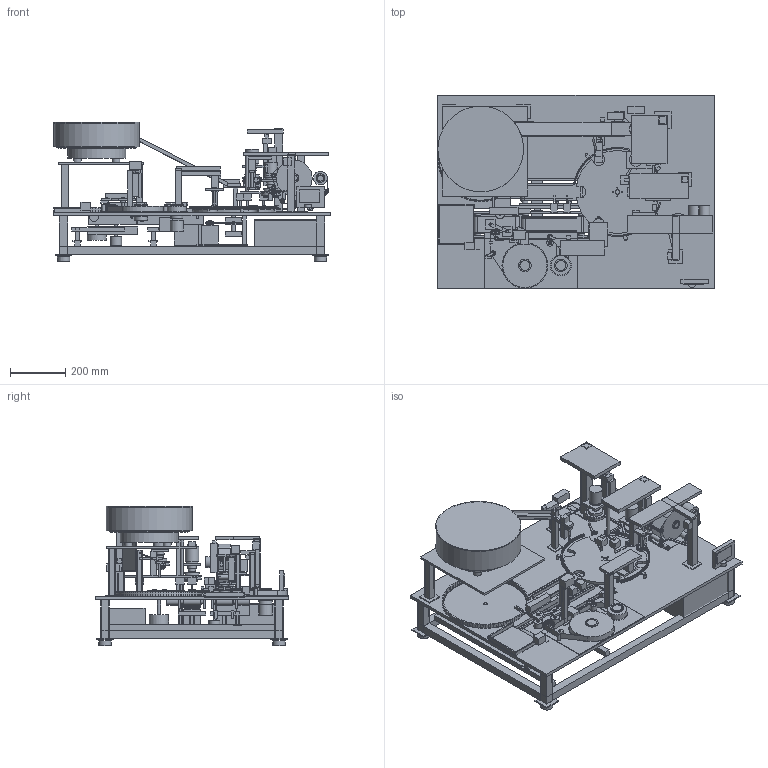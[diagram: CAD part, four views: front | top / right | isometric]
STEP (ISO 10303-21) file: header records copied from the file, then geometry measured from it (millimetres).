
FILE_DESCRIPTION(('Open CASCADE Model'),'2;1');
FILE_NAME('Open CASCADE Shape Model','2026-10-04T01:02:36',('Author'),( 'Open CASCADE'),'Open CASCADE STEP processor 8.0','Open CASCADE 8.0' ,'Unknown');
FILE_SCHEMA(('AUTOMOTIVE_DESIGN { 1 0 10303 214 1 1 1 1 }'));
Length unit declared in the file: millimetre
Products named in the file (412): Open CASCADE STEP translator 8.0 414; Open CASCADE STEP translator 8.0 414.1; Open CASCADE STEP translator 8.0 414.2; Open CASCADE STEP translator 8.0 414.3; Open CASCADE STEP translator 8.0 414.4; Open CASCADE STEP translator 8.0 414.5; Open CASCADE STEP translator 8.0 414.6; Open CASCADE STEP translator 8.0 414.7; Open CASCADE STEP translator 8.0 414.8; Open CASCADE STEP translator 8.0 414.9; Open CASCADE STEP translator 8.0 414.10; Open CASCADE STEP translator 8.0 414.11; Open CASCADE STEP translator 8.0 414.12; Open CASCADE STEP translator 8.0 414.13; Open CASCADE STEP translator 8.0 414.14; Open CASCADE STEP translator 8.0 414.15; Open CASCADE STEP translator 8.0 414.16; Open CASCADE STEP translator 8.0 414.17; Open CASCADE STEP translator 8.0 414.18; Open CASCADE STEP translator 8.0 414.19; Open CASCADE STEP translator 8.0 414.20; Open CASCADE STEP translator 8.0 414.21; Open CASCADE STEP translator 8.0 414.22; Open CASCADE STEP translator 8.0 414.23; Open CASCADE STEP translator 8.0 414.24; Open CASCADE STEP translator 8.0 414.25; Open CASCADE STEP translator 8.0 414.26; Open CASCADE STEP translator 8.0 414.27; Open CASCADE STEP translator 8.0 414.28; Open CASCADE STEP translator 8.0 414.29; Open CASCADE STEP translator 8.0 414.30; Open CASCADE STEP translator 8.0 414.31; Open CASCADE STEP translator 8.0 414.32; Open CASCADE STEP translator 8.0 414.33; Open CASCADE STEP translator 8.0 414.34; Open CASCADE STEP translator 8.0 414.35; Open CASCADE STEP translator 8.0 414.36; Open CASCADE STEP translator 8.0 414.37; Open CASCADE STEP translator 8.0 414.38; Open CASCADE STEP translator 8.0 414.39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
Assembly tree (411 placements, depth 3):
  Open CASCADE STEP translator 8.0 414
    Open CASCADE STEP translator 8.0 414.1
    Open CASCADE STEP translator 8.0 414.2
    Open CASCADE STEP translator 8.0 414.3
    Open CASCADE STEP translator 8.0 414.4
    Open CASCADE STEP translator 8.0 414.5
    Open CASCADE STEP translator 8.0 414.6
    Open CASCADE STEP translator 8.0 414.7
    Open CASCADE STEP translator 8.0 414.8
    Open CASCADE STEP translator 8.0 414.9
    Open CASCADE STEP translator 8.0 414.10
    Open CASCADE STEP translator 8.0 414.11
    Open CASCADE STEP translator 8.0 414.12
    Open CASCADE STEP translator 8.0 414.13
    Open CASCADE STEP translator 8.0 414.14
    Open CASCADE STEP translator 8.0 414.15
    Open CASCADE STEP translator 8.0 414.16
    Open CASCADE STEP translator 8.0 414.17
    Open CASCADE STEP translator 8.0 414.18
    Open CASCADE STEP translator 8.0 414.19
    Open CASCADE STEP translator 8.0 414.20
    Open CASCADE STEP translator 8.0 414.21
    Open CASCADE STEP translator 8.0 414.22
    Open CASCADE STEP translator 8.0 414.23
    Open CASCADE STEP translator 8.0 414.24
    Open CASCADE STEP translator 8.0 414.25
    Open CASCADE STEP translator 8.0 414.26
    Open CASCADE STEP translator 8.0 414.27
    Open CASCADE STEP translator 8.0 414.28
    Open CASCADE STEP translator 8.0 414.29
    Open CASCADE STEP translator 8.0 414.30
    Open CASCADE STEP translator 8.0 414.31
    Open CASCADE STEP translator 8.0 414.32
    Open CASCADE STEP translator 8.0 414.33
    Open CASCADE STEP translator 8.0 414.34
    Open CASCADE STEP translator 8.0 414.35
    Open CASCADE STEP translator 8.0 414.36
    Open CASCADE STEP translator 8.0 414.37
    Open CASCADE STEP translator 8.0 414.38
    Open CASCADE STEP translator 8.0 414.39
    Open CASCADE STEP translator 8.0 414.40
    Open CASCADE STEP translator 8.0 414.41
    Open CASCADE STEP translator 8.0 414.42
    Open CASCADE STEP translator 8.0 414.43
    Open CASCADE STEP translator 8.0 414.44
    Open CASCADE STEP translator 8.0 414.45
    Open CASCADE STEP translator 8.0 414.46
    Open CASCADE STEP translator 8.0 414.47
    Open CASCADE STEP translator 8.0 414.48
    Open CASCADE STEP translator 8.0 414.49
    Open CASCADE STEP translator 8.0 414.50
    Open CASCADE STEP translator 8.0 414.51
    Open CASCADE STEP translator 8.0 414.52
    Open CASCADE STEP translator 8.0 414.53
    Open CASCADE STEP translator 8.0 414.54
    Open CASCADE STEP translator 8.0 414.55
    Open CASCADE STEP translator 8.0 414.56
    Open CASCADE STEP translator 8.0 414.57
    Open CASCADE STEP translator 8.0 414.58
    Open CASCADE STEP translator 8.0 414.59
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Bounding box: 1000 x 700 x 505 mm (x, y, z)
Volume: 23295621.6 mm3; surface area: 5919069 mm2
Topology: 410 solids, 410 shells, 6559 faces, 17104 edges, 11359 vertices
Faces by surface type: plane 6210, cylinder 349
Full cylindrical faces by diameter (mm): 1.6 x16, 2.4 x2, 3.4 x4, 5 x2, 6 x10, 8 x25, 8.2 x32, 8.4 x11, 8.6 x6, 8.8 x12, 10 x6, 10.4 x1, 12 x4, 12.4 x10, 12.8 x2, 14 x20, 16 x6, 16.4 x4, 16.6 x1, 18 x6, 20 x4, 22 x14, 22.2 x4, 22.4 x2, 24 x4, 26 x3, 28 x5, 30 x8, 32 x10, 34 x1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
Entity records: 426176 total; most frequent: CARTESIAN_POINT 72762, DIRECTION 64120, LINE 47836, VECTOR 47836, ORIENTED_EDGE 34208, PCURVE 34208, DEFINITIONAL_REPRESENTATION 34208, EDGE_CURVE 17104
